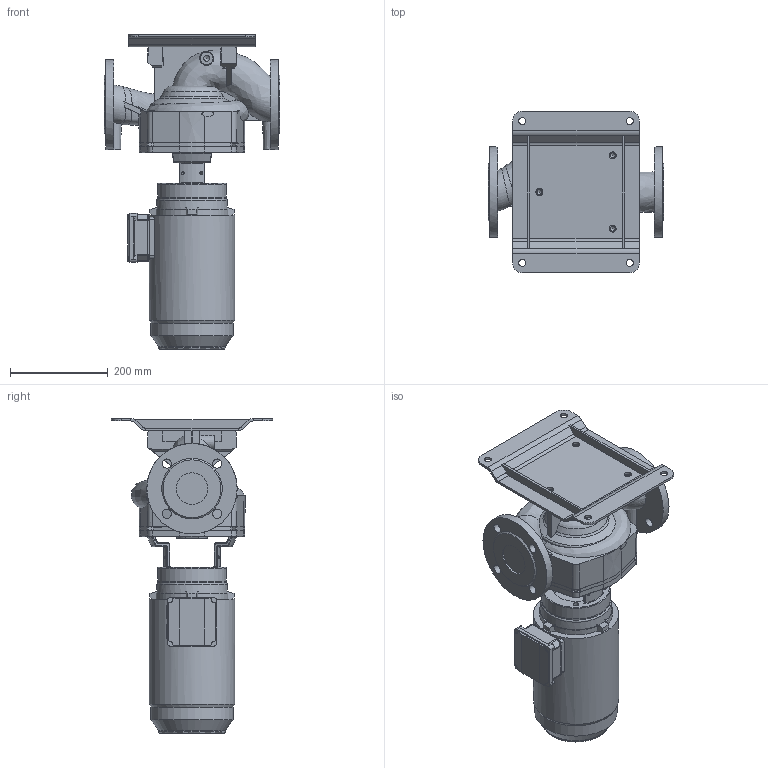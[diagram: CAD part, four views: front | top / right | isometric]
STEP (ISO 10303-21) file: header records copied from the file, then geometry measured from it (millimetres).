
FILE_DESCRIPTION (( 'STEP AP203' ), '1' );
FILE_NAME ('KI65-145_2_2,2kW.STEP', '2024-07-29T10:28:55', ( '' ), ( '' ), 'SwSTEP 2.0', 'SolidWorks 2023', '' );
FILE_SCHEMA (( 'CONFIG_CONTROL_DESIGN' ));
Length unit declared in the file: millimetre
Products named in the file (9): 220543; 230034; KI65-145_2_2,2kW; 230033; 230405; 230031; 230497; HMA3_90L-4_solid; 220542
Assembly tree (9 placements, depth 3):
  KI65-145_2_2,2kW
    220543
      220542
    230034
      230031
      230033  x2
    HMA3_90L-4_solid
    230405
    230497
Bounding box: 360 x 330.18 x 644.89 mm (x, y, z)
Volume: 15816625.8 mm3; surface area: 1044521.6 mm2
Topology: 7 solids, 8 shells, 836 faces, 2165 edges, 1339 vertices
Faces by surface type: plane 314, cylinder 272, bspline 107, torus 68, cone 61, sphere 14
Full cylindrical faces by diameter (mm): 5 x8, 6 x3, 6.8 x4, 7 x8, 10 x4, 10.2 x7, 11.8 x4, 14 x4, 14.5 x7, 19 x8, 65 x2, 95 x1, 136 x1, 140 x2, 147 x1, 151 x1, 168.6 x1, 174.6 x1, 189 x1
Entity records: 42997 total; most frequent: CARTESIAN_POINT 23189, ORIENTED_EDGE 3952, DIRECTION 3772, EDGE_CURVE 1976, AXIS2_PLACEMENT_3D 1447, VERTEX_POINT 1281, EDGE_LOOP 1023, FACE_OUTER_BOUND 900
